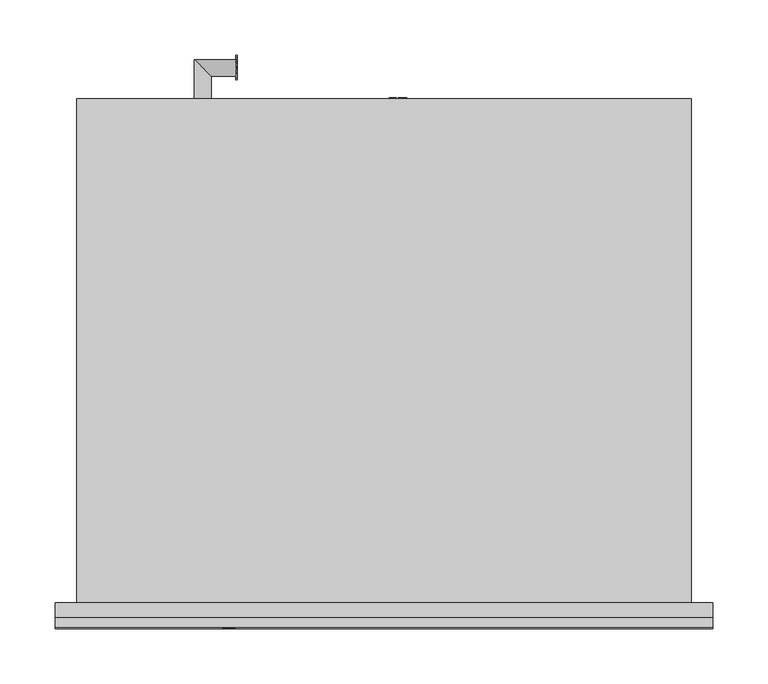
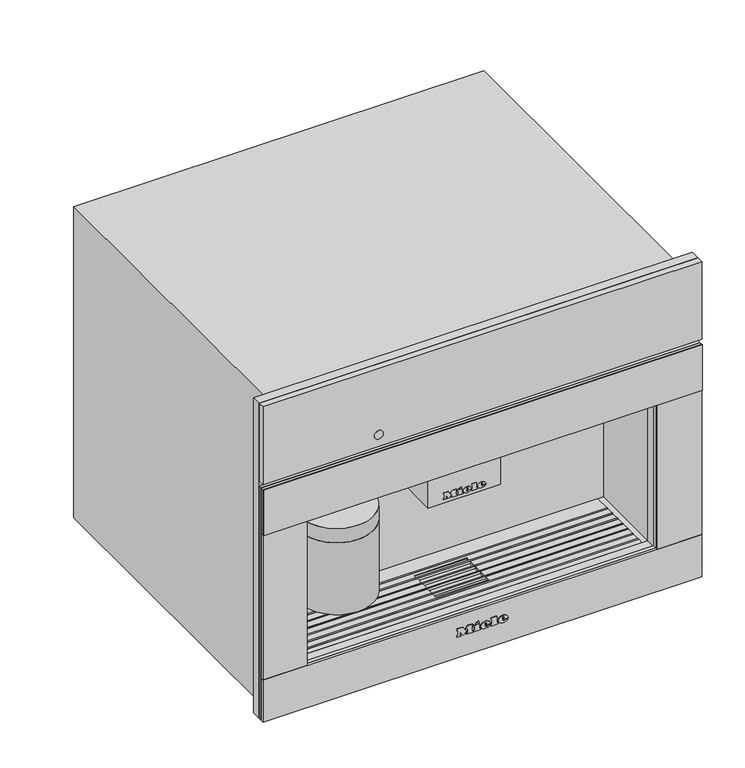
"""IFC4 building model written with IfcOpenShell, lengths in millimetres: proxy geometry, 11166010_NER_CVA7845_EDST-CLST : 29784540_NER_11166010_CVA7845_EDST-CLST."""

from ifc_helpers import new_model, si_unit, point, frame, frame_2d, origin, place, context, project, spatial, polyline, circle_curve, ellipse_curve, trimmed, segment, composite_curve, outline, extrude, faceted_brep, source, transform, mapped, element, save
from ifc_brep_helpers import plane_surface, cylinder_surface, revolved_surface, extruded_surface, advanced_brep


def specialty_equipment_bbc4acb7(model_context):
    return source(origin(), model_context, "Body", "SolidModel", [
        extrude(outline(composite_curve([segment(trimmed(circle_curve(frame_2d((-14.0, 36.5)), 5.0), [point((-9.0, 36.5))], [point((-19.0, 36.5))], False, "CARTESIAN"), True, "CONTINUOUS"), segment(trimmed(circle_curve(frame_2d((-14.0, 36.5)), 5.0), [point((-19.0, 36.5))], [point((-9.0, 36.5))], False, "CARTESIAN"), True, "CONTINUOUS")], self_intersect=False)), frame((0.0, 0.0, 193.0), z_axis=(0.0, 0.0, 1.0), x_axis=(1.0, 0.0, 0.0)), (0.0, 0.0, 1.0), 5.0),
        extrude(outline(composite_curve([segment(trimmed(circle_curve(frame_2d((14.0, 36.5)), 5.0), [point((19.0, 36.5))], [point((9.0, 36.5))], False, "CARTESIAN"), True, "CONTINUOUS"), segment(trimmed(circle_curve(frame_2d((14.0, 36.5)), 5.0), [point((9.0, 36.5))], [point((19.0, 36.5))], False, "CARTESIAN"), True, "CONTINUOUS")], self_intersect=False)), frame((0.0, 0.0, 193.0), z_axis=(0.0, 0.0, 1.0), x_axis=(1.0, 0.0, 0.0)), (0.0, 0.0, 1.0), 5.0),
        extrude(outline(composite_curve([segment(trimmed(circle_curve(frame_2d((-156.5, 49.5)), 50.0), [point((-106.5, 49.5))], [point((-206.5, 49.5))], False, "CARTESIAN"), True, "CONTINUOUS"), segment(trimmed(circle_curve(frame_2d((-156.5, 49.5)), 50.0), [point((-206.5, 49.5))], [point((-106.5, 49.5))], False, "CARTESIAN"), True, "CONTINUOUS")], self_intersect=False)), frame((0.0, 0.0, 100.0), z_axis=(0.0, 0.0, 1.0), x_axis=(1.0, 0.0, 0.0)), (0.0, 0.0, 1.0), 103.0),
        extrude(outline(polyline([(-49.0, 95.0), (49.0, 95.0), (49.0, 20.0), (-49.0, 20.0), (-49.0, 95.0)])), frame((0.0, 0.0, 198.0), z_axis=(0.0, 0.0, 1.0), x_axis=(1.0, 0.0, 0.0)), (0.0, 0.0, 1.0), 75.0),
        extrude(outline(polyline([(455.5, 297.5), (455.5, -297.5), (4.0, -297.5), (4.0, 297.5), (455.5, 297.5)]), holes=[polyline([(273.0, 237.5), (63.0, 237.5), (63.0, -237.5), (273.0, -237.5), (273.0, 237.5)])]), frame((0.0, -13.0, 0.0), z_axis=(0.0, 1.0, 0.0), x_axis=(0.0, 0.0, 1.0)), (0.0, 0.0, 1.0), 13.0),
        extrude(outline(polyline([(473.48348, 22.0), (473.48348, 32.045631), (474.7391839, 32.045631), (474.7391839, 27.128275), (479.8895318, 32.045631), (481.6455552, 32.045631), (477.319263, 27.9155425), (481.8025182, 22.0), (480.267224, 22.0), (476.4289885, 27.0669613), (474.7391839, 25.4531857), (474.7391839, 22.0), (473.48348, 22.0)])), frame((-134.0, 0.0, 0.0), z_axis=(1.0, 0.0, 0.0), x_axis=(0.0, 1.0, 0.0)), (0.0, 0.0, 1.0), 1.0),
        extrude(outline(polyline([(484.5420128, 22.0), (481.8025182, 32.045631), (483.0974628, 32.045631), (484.6867131, 25.4433755), (485.1772224, 23.4053092), (485.7020674, 25.207931), (487.6935352, 32.045631), (489.5599232, 32.045631), (491.0069257, 27.0890343), (492.0835937, 23.4053092), (492.5593878, 25.3845144), (494.1609007, 32.045631), (495.4582979, 32.045631), (492.7212558, 22.0), (491.3772603, 22.0), (488.9664069, 29.7500474), (488.630408, 30.8316204), (488.2527159, 29.5293182), (486.0576866, 22.0), (484.5420128, 22.0)])), frame((-134.0, 0.0, 0.0), z_axis=(1.0, 0.0, 0.0), x_axis=(0.0, 1.0, 0.0)), (0.0, 0.0, 1.0), 1.0),
        advanced_brep(
        [(-156.5, 456.0, 27.0), (-171.5, 456.0, 27.0), (-156.5, 476.5, 27.0), (-171.5, 491.5, 27.0), (-134.0, 476.5, 27.0), (-134.0, 491.5, 27.0)],
        [
            (0, 1, circle_curve(frame((-164.0, 456.0, 27.0), z_axis=(0.0, -1.0, 0.0), x_axis=(-1.0, 0.0, 0.0)), 7.5)),
            (1, 0, circle_curve(frame((-164.0, 456.0, 27.0), z_axis=(0.0, -1.0, 0.0), x_axis=(-1.0, 0.0, 0.0)), 7.5)),
            (0, 2),
            (2, 3, ellipse_curve(frame((-164.0, 484.0, 27.0), z_axis=(-0.707106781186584, -0.7071067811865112, 0.0), x_axis=(0.7071067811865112, -0.7071067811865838, 0.0)), 10.6066017, 7.5)),
            (3, 1),
            (3, 2, ellipse_curve(frame((-164.0, 484.0, 27.0), z_axis=(-0.707106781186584, -0.7071067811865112, 0.0), x_axis=(0.7071067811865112, -0.7071067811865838, 0.0)), 10.6066017, 7.5)),
            (4, 5, circle_curve(frame((-134.0, 484.0, 27.0), z_axis=(1.0, 0.0, 0.0), x_axis=(0.0, 1.0, 0.0)), 7.5)),
            (5, 4, circle_curve(frame((-134.0, 484.0, 27.0), z_axis=(1.0, 0.0, 0.0), x_axis=(0.0, 1.0, 0.0)), 7.5)),
            (2, 4),
            (5, 3),
        ],
        [
            plane_surface(frame((-164.0, 456.0, 27.0), z_axis=(0.0, -1.0, 0.0), x_axis=(0.0, 0.0, 1.0))),
            cylinder_surface(frame((-164.0, 456.0, 27.0), z_axis=(0.0, -1.0, 0.0), x_axis=(-1.0, 0.0, 0.0)), 7.5),
            plane_surface(frame((-134.0, 484.0, 27.0), z_axis=(1.0, 0.0, 0.0), x_axis=(0.0, 0.0, 1.0))),
            cylinder_surface(frame((-164.0, 484.0, 27.0), z_axis=(-1.0, 0.0, 0.0), x_axis=(0.0, 1.0, 0.0)), 7.5),
        ],
        [
            (0, [[1, 2]]),
            (1, [[-1, 3, 4, 5]]),
            (1, [[-2, -5, 6, -3]]),
            (2, [[7, 8]]),
            (3, [[-4, 9, -8, 10]]),
            (3, [[-6, -10, -7, -9]]),
        ],
    ),
        extrude(outline(polyline([(97.0, 20.4012141), (107.045631, 20.4012141), (107.045631, 13.1809168), (105.7899271, 13.1809168), (105.7899271, 19.1455102), (102.8076304, 19.1455102), (102.8076304, 13.4948427), (101.5519266, 13.4948427), (101.5519266, 19.1455102), (98.2557039, 19.1455102), (98.2557039, 13.0239538), (97.0, 13.0239538), (97.0, 20.4012141)])), frame((0.0, 456.0, 0.0), z_axis=(0.0, 1.0, 0.0), x_axis=(0.0, 0.0, 1.0)), (0.0, 0.0, 1.0), 1.0),
        extrude(outline(polyline([(97.0, 11.140398), (107.045631, 11.140398), (107.045631, 9.8846941), (98.2557039, 9.8846941), (98.2557039, 4.8618786), (97.0, 4.8618786), (97.0, 11.140398)])), frame((0.0, 456.0, 0.0), z_axis=(0.0, 1.0, 0.0), x_axis=(0.0, 0.0, 1.0)), (0.0, 0.0, 1.0), 1.0),
        advanced_brep(
        [(55.0, 425.5, 102.0), (55.0, 410.5, 102.0), (20.5239538, 425.5, 102.0), (5.5239538, 410.5, 102.0), (20.5239538, 456.0, 102.0), (5.5239538, 456.0, 102.0)],
        [
            (0, 1, circle_curve(frame((55.0, 418.0, 102.0), z_axis=(1.0, 0.0, 0.0), x_axis=(0.0, -1.0, 0.0)), 7.5)),
            (1, 0, circle_curve(frame((55.0, 418.0, 102.0), z_axis=(1.0, 0.0, 0.0), x_axis=(0.0, -1.0, 0.0)), 7.5)),
            (0, 2),
            (2, 3, ellipse_curve(frame((13.0239538, 418.0, 102.0), z_axis=(0.7071067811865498, -0.7071067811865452, 0.0), x_axis=(0.7071067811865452, 0.7071067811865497, 0.0)), 10.6066017, 7.5)),
            (3, 1),
            (3, 2, ellipse_curve(frame((13.0239538, 418.0, 102.0), z_axis=(0.7071067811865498, -0.7071067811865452, 0.0), x_axis=(0.7071067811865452, 0.7071067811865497, 0.0)), 10.6066017, 7.5)),
            (4, 5, circle_curve(frame((13.0239538, 456.0, 102.0), z_axis=(0.0, 1.0, 0.0), x_axis=(-1.0, 0.0, 0.0)), 7.5)),
            (5, 4, circle_curve(frame((13.0239538, 456.0, 102.0), z_axis=(0.0, 1.0, 0.0), x_axis=(-1.0, 0.0, 0.0)), 7.5)),
            (2, 4),
            (5, 3),
        ],
        [
            plane_surface(frame((55.0, 418.0, 102.0), z_axis=(1.0, 0.0, 0.0), x_axis=(0.0, 0.0, 1.0))),
            cylinder_surface(frame((55.0, 418.0, 102.0), z_axis=(1.0, 0.0, 0.0), x_axis=(0.0, -1.0, 0.0)), 7.5),
            plane_surface(frame((13.0239538, 456.0, 102.0), z_axis=(0.0, 1.0, 0.0), x_axis=(0.0, 0.0, 1.0))),
            cylinder_surface(frame((13.0239538, 418.0, 102.0), z_axis=(0.0, -1.0, 0.0), x_axis=(-1.0, 0.0, 0.0)), 7.5),
        ],
        [
            (0, [[1, 2]]),
            (1, [[-1, 3, 4, 5]]),
            (1, [[-2, -5, 6, -3]]),
            (2, [[7, 8]]),
            (3, [[-4, 9, -8, 10]]),
            (3, [[-6, -10, -7, -9]]),
        ],
    ),
        advanced_brep(
        [(-110.0, 49.5, 252.0), (-203.0, 49.5, 252.0), (-206.5, 49.5, 223.5), (-106.5, 49.5, 223.5), (-110.0, 49.5, 273.0), (-203.0, 49.5, 273.0), (-156.5, 49.5, 273.0), (-106.5, 49.5, 203.0), (-206.5, 49.5, 203.0), (-156.5, 49.5, 203.0)],
        [
            (0, 1, circle_curve(frame((-156.5, 49.5, 252.0), z_axis=(0.0, 0.0, -1.0), x_axis=(-1.0, 0.0, 0.0)), 46.5)),
            (1, 2, circle_curve(frame((-206.7961166, 49.5, 238.0012775), z_axis=(0.0, 1.0, 0.0), x_axis=(-1.0, 0.0, 0.0)), 14.5043005)),
            (2, 3, circle_curve(frame((-156.5, 49.5, 223.5), z_axis=(0.0, 0.0, 1.0), x_axis=(-1.0, 0.0, 0.0)), 50.0)),
            (3, 0, circle_curve(frame((-106.2038834, 49.5, 238.0012775), z_axis=(0.0, 1.0, 0.0), x_axis=(1.0, 0.0, 0.0)), 14.5043005)),
            (4, 5, circle_curve(frame((-156.5, 49.5, 273.0), z_axis=(0.0, 0.0, -1.0), x_axis=(-1.0, 0.0, 0.0)), 46.5)),
            (5, 1),
            (0, 4),
            (6, 4),
            (4, 5, circle_curve(frame((-156.5, 49.5, 273.0), z_axis=(0.0, 0.0, 1.0), x_axis=(-1.0, 0.0, 0.0)), 46.5)),
            (5, 6),
            (7, 8, circle_curve(frame((-156.5, 49.5, 203.0), z_axis=(0.0, 0.0, -1.0), x_axis=(-1.0, 0.0, 0.0)), 50.0)),
            (8, 9),
            (9, 7),
            (8, 7, circle_curve(frame((-156.5, 49.5, 203.0), z_axis=(0.0, 0.0, -1.0), x_axis=(-1.0, 0.0, 0.0)), 50.0)),
            (2, 8),
            (7, 3),
            (2, 3, circle_curve(frame((-156.5, 49.5, 223.5), z_axis=(0.0, 0.0, -1.0), x_axis=(-1.0, 0.0, 0.0)), 50.0)),
            (1, 0, circle_curve(frame((-156.5, 49.5, 252.0), z_axis=(0.0, 0.0, -1.0), x_axis=(-1.0, 0.0, 0.0)), 46.5)),
        ],
        [
            revolved_surface(trimmed(ellipse_curve(frame((-206.7961166, 49.5, 238.0012775), z_axis=(0.0, -1.0, 0.0), x_axis=(-1.0, 0.0, 0.0)), 14.5043005, 14.5043005), [point((-206.5, 49.5, 223.5))], [point((-203.0, 49.5, 252.0))], True, "CARTESIAN"), (-156.5, 49.5, 388.7361736), (0.0, 0.0, 1.0)),
            cylinder_surface(frame((-156.5, 49.5, 388.7361736), z_axis=(0.0, 0.0, 1.0), x_axis=(-1.0, 0.0, 0.0)), 46.5),
            plane_surface(frame((-156.5, 49.5, 273.0), z_axis=(0.0, 0.0, 1.0), x_axis=(-1.0, 0.0, 0.0))),
            plane_surface(frame((-156.5, 49.5, 203.0), z_axis=(0.0, 0.0, -1.0), x_axis=(-1.0, 0.0, 0.0))),
            cylinder_surface(frame((-156.5, 49.5, 388.7361736), z_axis=(0.0, 0.0, 1.0), x_axis=(-1.0, 0.0, 0.0)), 50.0),
        ],
        [
            (0, [[1, 2, 3, 4]]),
            (1, [[5, 6, -1, 7]]),
            (2, [[8, 9, 10]]),
            (3, [[11, 12, 13]]),
            (3, [[14, -13, -12]]),
            (4, [[-3, 15, -11, 16]]),
            (4, [[17, -16, -14, -15]]),
            (0, [[18, -4, -17, -2]]),
            (1, [[-9, -7, -18, -6]]),
            (2, [[-10, -5, -8]]),
        ],
    ),
        faceted_brep([(229.5, 82.0925571, 60.0), (229.5, 80.0925571, 60.0), (-229.5, 80.0925571, 60.0), (-229.5, 82.0925571, 60.0), (229.5, 70.0550731, 60.0), (229.5, 68.0550731, 60.0), (-229.5, 68.0550731, 60.0), (-229.5, 70.0550731, 60.0), (229.5, 58.0175891, 60.0), (229.5, 56.0175891, 60.0), (-229.5, 56.0175891, 60.0), (-229.5, 58.0175891, 60.0), (229.5, 45.9801052, 60.0), (229.5, 43.9801052, 60.0), (-229.5, 43.9801052, 60.0), (-229.5, 45.9801052, 60.0), (229.5, 33.9426212, 60.0), (229.5, 31.9426212, 60.0), (-229.5, 31.9426212, 60.0), (-229.5, 33.9426212, 60.0), (229.5, 21.9776522, 60.0), (229.5, 19.9776522, 60.0), (-229.5, 19.9776522, 60.0), (-229.5, 21.9776522, 60.0), (229.5, 10.0, 60.0), (229.5, 8.0, 60.0), (-229.5, 8.0, 60.0), (-229.5, 10.0, 60.0), (-229.5, 45.9801052, 62.0), (-36.0, 45.9801052, 62.0), (-36.0, 45.9801052, 63.0), (-229.5, 45.9801052, 63.0), (-229.5, 45.9801052, 63.5), (229.5, 45.9801052, 63.5), (229.5, 45.9801052, 63.0), (36.0, 45.9801052, 63.0), (36.0, 45.9801052, 62.0), (229.5, 45.9801052, 62.0), (229.5, 19.9776522, 62.0), (229.5, 10.0, 62.0), (-229.5, 10.0, 62.0), (-229.5, 19.9776522, 62.0), (229.5, 43.9801052, 62.0), (229.5, 33.9426212, 62.0), (36.0, 33.9426212, 62.0), (36.0, 43.9801052, 62.0), (229.5, 56.0175891, 62.0), (36.0, 56.0175891, 62.0), (229.5, 68.0550731, 62.0), (229.5, 58.0175891, 62.0), (36.0, 58.0175891, 62.0), (36.0, 68.0550731, 62.0), (-229.5, 33.9426212, 62.0), (-229.5, 43.9801052, 62.0), (-36.0, 43.9801052, 62.0), (-36.0, 33.9426212, 62.0), (-229.5, 56.0175891, 62.0), (-36.0, 56.0175891, 62.0), (-229.5, 58.0175891, 62.0), (-229.5, 68.0550731, 62.0), (-36.0, 68.0550731, 62.0), (-36.0, 58.0175891, 62.0), (-229.5, 104.5, 62.0), (229.5, 104.5, 62.0), (229.5, 82.0925571, 62.0), (-229.5, 82.0925571, 62.0), (36.0, 76.0, 62.0), (-36.0, 76.0, 62.0), (-36.0, 70.0550731, 62.0), (-229.5, 70.0550731, 62.0), (-229.5, 80.0925571, 62.0), (229.5, 80.0925571, 62.0), (229.5, 70.0550731, 62.0), (36.0, 70.0550731, 62.0), (229.5, 0.0, 62.0), (-229.5, 0.0, 62.0), (-229.5, 8.0, 62.0), (229.5, 8.0, 62.0), (-36.0, 25.0, 62.0), (36.0, 25.0, 62.0), (36.0, 31.9426212, 62.0), (229.5, 31.9426212, 62.0), (229.5, 21.9776522, 62.0), (-229.5, 21.9776522, 62.0), (-229.5, 31.9426212, 62.0), (-36.0, 31.9426212, 62.0), (229.5, 104.5, 63.0), (-229.5, 104.5, 63.0), (-229.5, 82.0925571, 63.0), (229.5, 82.0925571, 63.0), (-229.5, 0.0, 63.0), (229.5, 0.0, 63.0), (229.5, 8.0, 63.0), (-229.5, 8.0, 63.0), (-36.0, 76.0, 63.0), (36.0, 76.0, 63.0), (36.0, 70.0550731, 63.0), (229.5, 70.0550731, 63.0), (229.5, 80.0925571, 63.0), (-229.5, 80.0925571, 63.0), (-229.5, 70.0550731, 63.0), (-36.0, 70.0550731, 63.0), (36.0, 25.0, 63.0), (-36.0, 25.0, 63.0), (-36.0, 31.9426212, 63.0), (-229.5, 31.9426212, 63.0), (-229.5, 21.9776522, 63.0), (229.5, 21.9776522, 63.0), (229.5, 31.9426212, 63.0), (36.0, 31.9426212, 63.0), (-229.5, 19.9776522, 63.0), (-229.5, 10.0, 63.0), (229.5, 10.0, 63.0), (229.5, 19.9776522, 63.0), (-229.5, 43.9801052, 63.0), (-229.5, 33.9426212, 63.0), (-36.0, 33.9426212, 63.0), (-36.0, 43.9801052, 63.0), (-229.5, 56.0175891, 63.0), (-36.0, 56.0175891, 63.0), (-229.5, 68.0550731, 63.0), (-229.5, 58.0175891, 63.0), (-36.0, 58.0175891, 63.0), (-36.0, 68.0550731, 63.0), (229.5, 33.9426212, 63.0), (229.5, 43.9801052, 63.0), (36.0, 43.9801052, 63.0), (36.0, 33.9426212, 63.0), (229.5, 56.0175891, 63.0), (36.0, 56.0175891, 63.0), (229.5, 58.0175891, 63.0), (229.5, 68.0550731, 63.0), (36.0, 68.0550731, 63.0), (36.0, 58.0175891, 63.0), (-229.5, 8.0, 63.5), (-229.5, 10.0, 63.5), (-229.5, 19.9776522, 63.5), (-229.5, 21.9776522, 63.5), (-229.5, 31.9426212, 63.5), (-229.5, 33.9426212, 63.5), (-229.5, 43.9801052, 63.5), (-229.5, 56.0175891, 63.5), (-229.5, 58.0175891, 63.5), (-229.5, 68.0550731, 63.5), (-229.5, 70.0550731, 63.5), (-229.5, 80.0925571, 63.5), (-229.5, 82.0925571, 63.5), (229.5, 82.0925571, 63.5), (229.5, 80.0925571, 63.5), (229.5, 70.0550731, 63.5), (229.5, 68.0550731, 63.5), (229.5, 58.0175891, 63.5), (229.5, 56.0175891, 63.5), (229.5, 43.9801052, 63.5), (229.5, 33.9426212, 63.5), (229.5, 31.9426212, 63.5), (229.5, 21.9776522, 63.5), (229.5, 19.9776522, 63.5), (229.5, 10.0, 63.5), (229.5, 8.0, 63.5)], [[[0, 1, 2, 3]], [[4, 5, 6, 7]], [[8, 9, 10, 11]], [[12, 13, 14, 15]], [[16, 17, 18, 19]], [[20, 21, 22, 23]], [[24, 25, 26, 27]], [[12, 15, 28, 29, 30, 31, 32, 33, 34, 35, 36, 37]], [[38, 39, 40, 41]], [[42, 43, 44, 45]], [[46, 37, 36, 47]], [[48, 49, 50, 51]], [[52, 53, 54, 55]], [[28, 56, 57, 29]], [[58, 59, 60, 61]], [[62, 63, 64, 65]], [[66, 67, 68, 69, 70, 71, 72, 73]], [[74, 75, 76, 77]], [[78, 79, 80, 81, 82, 83, 84, 85]], [[86, 87, 88, 89]], [[90, 91, 92, 93]], [[94, 95, 96, 97, 98, 99, 100, 101]], [[102, 103, 104, 105, 106, 107, 108, 109]], [[110, 111, 112, 113]], [[114, 115, 116, 117]], [[118, 31, 30, 119]], [[120, 121, 122, 123]], [[124, 125, 126, 127]], [[34, 128, 129, 35]], [[130, 131, 132, 133]], [[63, 62, 87, 86]], [[87, 62, 65, 3, 2, 70, 69, 7, 6, 59, 58, 11, 10, 56, 28, 15, 14, 53, 52, 19, 18, 84, 83, 23, 22, 41, 40, 27, 26, 76, 75, 90, 93, 134, 135, 111, 110, 136, 137, 106, 105, 138, 139, 115, 114, 140, 32, 31, 118, 141, 142, 121, 120, 143, 144, 100, 99, 145, 146, 88]], [[75, 74, 91, 90]], [[63, 86, 89, 147, 148, 98, 97, 149, 150, 131, 130, 151, 152, 128, 34, 33, 153, 125, 124, 154, 155, 108, 107, 156, 157, 113, 112, 158, 159, 92, 91, 74, 77, 25, 24, 39, 38, 21, 20, 82, 81, 17, 16, 43, 42, 13, 12, 37, 46, 9, 8, 49, 48, 5, 4, 72, 71, 1, 0, 64]], [[66, 95, 94, 67]], [[55, 54, 117, 116]], [[29, 57, 119, 30]], [[61, 60, 123, 122]], [[67, 94, 101, 68]], [[103, 78, 85, 104]], [[78, 103, 102, 79]], [[45, 44, 127, 126]], [[47, 36, 35, 129]], [[51, 50, 133, 132]], [[95, 66, 73, 96]], [[79, 102, 109, 80]], [[158, 135, 134, 159]], [[156, 137, 136, 157]], [[154, 139, 138, 155]], [[33, 32, 140, 153]], [[151, 142, 141, 152]], [[149, 144, 143, 150]], [[147, 146, 145, 148]], [[24, 27, 40, 39]], [[135, 158, 112, 111]], [[26, 25, 77, 76]], [[159, 134, 93, 92]], [[20, 23, 83, 82]], [[137, 156, 107, 106]], [[22, 21, 38, 41]], [[157, 136, 110, 113]], [[16, 19, 52, 55, 116, 115, 139, 154, 124, 127, 44, 43]], [[18, 17, 81, 80, 109, 108, 155, 138, 105, 104, 85, 84]], [[14, 13, 42, 45, 126, 125, 153, 140, 114, 117, 54, 53]], [[8, 11, 58, 61, 122, 121, 142, 151, 130, 133, 50, 49]], [[10, 9, 46, 47, 129, 128, 152, 141, 118, 119, 57, 56]], [[4, 7, 69, 68, 101, 100, 144, 149, 97, 96, 73, 72]], [[6, 5, 48, 51, 132, 131, 150, 143, 120, 123, 60, 59]], [[0, 3, 65, 64]], [[146, 147, 89, 88]], [[2, 1, 71, 70]], [[148, 145, 99, 98]]]),
        faceted_brep([(-278.0, 456.0, 0.0), (-278.0, 0.0, 0.0), (-278.0, 0.0, 446.0), (-278.0, 456.0, 446.0), (278.0, 456.0, 0.0), (278.0, 456.0, 446.0), (278.0, 0.0, 446.0), (278.0, 0.0, 0.0), (55.0, 456.0, 133.0), (-22.0, 456.0, 133.0), (-22.0, 456.0, 89.0), (35.0, 456.0, 66.0), (55.0, 456.0, 66.0), (-36.0, 76.0, 58.0), (36.0, 76.0, 58.0), (36.0, 76.0, 62.0), (-36.0, 76.0, 62.0), (36.0, 25.0, 58.0), (-36.0, 25.0, 58.0), (-36.0, 25.0, 62.0), (36.0, 25.0, 62.0), (237.5, 0.0, 273.0), (237.5, 0.0, 63.0), (229.5, 0.0, 63.0), (229.5, 0.0, 62.0), (-229.5, 0.0, 62.0), (-229.5, 0.0, 63.0), (-237.5, 0.0, 63.0), (-237.5, 0.0, 273.0), (237.5, 104.5, 273.0), (-237.5, 104.5, 273.0), (-237.5, 104.5, 63.0), (-229.5, 104.5, 63.0), (-229.5, 104.5, 62.0), (229.5, 104.5, 62.0), (229.5, 104.5, 63.0), (237.5, 104.5, 63.0), (-22.0, 400.0, 133.0), (55.0, 400.0, 133.0), (55.0, 400.0, 66.0), (35.0, 400.0, 66.0), (-22.0, 400.0, 89.0)], [[[0, 1, 2, 3]], [[4, 5, 6, 7]], [[0, 3, 5, 4], [8, 9, 10, 11, 12]], [[13, 14, 15, 16]], [[17, 18, 19, 20]], [[3, 2, 6, 5]], [[2, 1, 7, 6], [21, 22, 23, 24, 25, 26, 27, 28]], [[1, 0, 4, 7]], [[29, 30, 31, 32, 33, 34, 35, 36]], [[29, 36, 22, 21]], [[22, 36, 35, 23]], [[31, 27, 26, 32]], [[31, 30, 28, 27]], [[30, 29, 21, 28]], [[34, 33, 25, 24], [16, 15, 20, 19]], [[25, 33, 32, 26]], [[34, 24, 23, 35]], [[14, 13, 18, 17]], [[18, 13, 16, 19]], [[14, 17, 20, 15]], [[37, 38, 39, 40, 41]], [[38, 37, 9, 8]], [[39, 38, 8, 12]], [[40, 39, 12, 11]], [[41, 40, 11, 10]], [[37, 41, 10, 9]]]),
        advanced_brep(
        [(27.088, -23.0, 36.7018), (27.088, -23.0, 37.8532), (34.7146, -23.0, 37.8532), (21.445, -23.0, 37.8532), (24.58, -23.0, 34.0), (34.5208, -23.0, 36.7018), (31.078, -23.0, 36.7018), (28.3648, -23.0, 35.425), (27.088, -23.0, 39.3124), (27.088, -23.0, 40.555), (29.0374, -23.0, 40.555), (29.0374, -23.0, 39.3124), (27.088, -22.0, 36.7018), (28.3648, -22.0, 35.425), (31.078, -22.0, 36.7018), (34.5208, -22.0, 36.7018), (24.58, -22.0, 34.0), (21.445, -22.0, 37.8532), (34.7146, -22.0, 37.8532), (27.088, -22.0, 37.8532), (27.088, -22.0, 39.3124), (29.0374, -22.0, 39.3124), (29.0374, -22.0, 40.555), (27.088, -22.0, 40.555)],
        [
            (0, 1),
            (1, 2),
            (2, 3, ellipse_curve(frame((28.0798, -23.0, 37.8532), z_axis=(0.0, -1.0, 0.0), x_axis=(-1.0, 0.0, 0.0)), 6.6348, 5.4834)),
            (3, 4, circle_curve(frame((25.8568622, -23.0, 38.2408), z_axis=(0.0, -1.0, 0.0), x_axis=(0.0, 0.0, -1.0)), 4.4288556)),
            (4, 5, circle_curve(frame((27.9469808, -23.0, 41.2504), z_axis=(0.0, -1.0, 0.0), x_axis=(0.0, 0.0, -1.0)), 7.9940516)),
            (5, 6),
            (6, 7, circle_curve(frame((28.9220588, -23.0, 37.762), z_axis=(0.0, 1.0, 0.0), x_axis=(0.0, 0.0, -1.0)), 2.4025208)),
            (7, 0, circle_curve(frame((28.3648, -23.0, 36.7018), z_axis=(0.0, 1.0, 0.0), x_axis=(0.0, 0.0, -1.0)), 1.2768)),
            (8, 9),
            (9, 10, circle_curve(frame((28.0627, -23.0, 40.555), z_axis=(0.0, 1.0, 0.0), x_axis=(0.0, 0.0, -1.0)), 0.9747)),
            (10, 11),
            (11, 8),
            (12, 13, circle_curve(frame((28.3648, -22.0, 36.7018), z_axis=(0.0, -1.0, 0.0), x_axis=(0.0, 0.0, -1.0)), 1.2768)),
            (13, 14, circle_curve(frame((28.9220588, -22.0, 37.762), z_axis=(0.0, -1.0, 0.0), x_axis=(0.0, 0.0, -1.0)), 2.4025208)),
            (14, 15),
            (15, 16, circle_curve(frame((27.9469808, -22.0, 41.2504), z_axis=(0.0, 1.0, 0.0), x_axis=(0.0, 0.0, -1.0)), 7.9940516)),
            (16, 17, circle_curve(frame((25.8568622, -22.0, 38.2408), z_axis=(0.0, 1.0, 0.0), x_axis=(0.0, 0.0, -1.0)), 4.4288556)),
            (17, 18, ellipse_curve(frame((28.0798, -22.0, 37.8532), z_axis=(0.0, 1.0, 0.0), x_axis=(-1.0, 0.0, 0.0)), 6.6348, 5.4834)),
            (18, 19),
            (19, 12),
            (20, 21),
            (21, 22),
            (22, 23, circle_curve(frame((28.0627, -22.0, 40.555), z_axis=(0.0, -1.0, 0.0), x_axis=(0.0, 0.0, -1.0)), 0.9747)),
            (23, 20),
            (0, 12),
            (19, 1),
            (18, 2),
            (5, 15),
            (14, 6),
            (17, 3),
            (13, 7),
            (16, 4),
            (8, 20),
            (23, 9),
            (22, 10),
            (21, 11),
        ],
        [
            plane_surface(frame((27.088, -23.0, 37.8532), z_axis=(0.0, -1.0, 0.0), x_axis=(0.0, 0.0, 1.0))),
            plane_surface(frame((27.088, -22.0, 37.8532), z_axis=(0.0, 1.0, 0.0), x_axis=(0.0, 0.0, -1.0))),
            plane_surface(frame((27.088, -23.0, 36.7018), z_axis=(1.0, 0.0, 0.0), x_axis=(0.0, 1.0, 0.0))),
            plane_surface(frame((27.088, -23.0, 37.8532), z_axis=(0.0, 0.0, -1.0), x_axis=(0.0, 1.0, 0.0))),
            plane_surface(frame((34.5208, -23.0, 36.7018), z_axis=(0.0, 0.0, 1.0), x_axis=(0.0, 1.0, 0.0))),
            extruded_surface(trimmed(ellipse_curve(frame((28.0798, -21.0, 37.8532), z_axis=(0.0, -1.0, 0.0), x_axis=(-1.0, 0.0, 0.0)), 6.6348, 5.4834), [point((34.7146, -21.0, 37.8532))], [point((21.445, -21.0, 37.8532))], True, "CARTESIAN"), (0.0, -1.0, 0.0), 1.0),
            revolved_surface(polyline([(28.9220588, -22.0, 35.3594792), (28.9220588, -23.0, 35.3594792)]), (28.9220588, -22.0, 37.762), (0.0, 1.0, 0.0)),
            revolved_surface(polyline([(28.3648, -22.0, 35.425), (28.3648, -23.0, 35.425)]), (28.3648, -22.0, 36.7018), (0.0, 1.0, 0.0)),
            cylinder_surface(frame((25.8568622, -22.0, 38.2408), z_axis=(0.0, -1.0, 0.0), x_axis=(0.0, 0.0, -1.0)), 4.4288556),
            cylinder_surface(frame((27.9469808, -22.0, 41.2504), z_axis=(0.0, -1.0, 0.0), x_axis=(0.0, 0.0, -1.0)), 7.9940516),
            plane_surface(frame((27.088, -23.0, 39.3124), z_axis=(1.0, 0.0, 0.0), x_axis=(0.0, 1.0, 0.0))),
            revolved_surface(polyline([(28.0627, -22.0, 39.5803), (28.0627, -23.0, 39.5803)]), (28.0627, -22.0, 40.555), (0.0, 1.0, 0.0)),
            plane_surface(frame((29.0374, -23.0, 40.555), z_axis=(-1.0, 0.0, 0.0), x_axis=(0.0, 1.0, 0.0))),
            plane_surface(frame((29.0374, -23.0, 39.3124), z_axis=(0.0, 0.0, 1.0), x_axis=(0.0, 1.0, 0.0))),
        ],
        [
            (0, [[1, 2, 3, 4, 5, 6, 7, 8], [9, 10, 11, 12]]),
            (1, [[13, 14, 15, 16, 17, 18, 19, 20], [21, 22, 23, 24]]),
            (2, [[-1, 25, -20, 26]]),
            (3, [[-2, -26, -19, 27]]),
            (4, [[-6, 28, -15, 29]]),
            (5, [[-3, -27, -18, 30]]),
            (6, [[-7, -29, -14, 31]]),
            (7, [[-8, -31, -13, -25]]),
            (8, [[-4, -30, -17, 32]]),
            (9, [[-5, -32, -16, -28]]),
            (10, [[-9, 33, -24, 34]]),
            (11, [[-10, -34, -23, 35]]),
            (12, [[-11, -35, -22, 36]]),
            (13, [[-12, -36, -21, -33]]),
        ],
    ),
        advanced_brep(
        [(3.2962, -23.0, 36.7018), (3.2962, -23.0, 37.8532), (10.9228, -23.0, 37.8532), (-2.3468, -23.0, 37.8532), (0.7882, -23.0, 34.0), (10.729, -23.0, 36.7018), (7.2862, -23.0, 36.7018), (4.573, -23.0, 35.425), (3.2962, -23.0, 39.3124), (3.2962, -23.0, 40.555), (5.2456, -23.0, 40.555), (5.2456, -23.0, 39.3124), (3.2962, -22.0, 36.7018), (4.573, -22.0, 35.425), (7.2862, -22.0, 36.7018), (10.729, -22.0, 36.7018), (0.7882, -22.0, 34.0), (-2.3468, -22.0, 37.8532), (10.9228, -22.0, 37.8532), (3.2962, -22.0, 37.8532), (3.2962, -22.0, 39.3124), (5.2456, -22.0, 39.3124), (5.2456, -22.0, 40.555), (3.2962, -22.0, 40.555)],
        [
            (0, 1),
            (1, 2),
            (2, 3, ellipse_curve(frame((4.288, -23.0, 37.8532), z_axis=(0.0, -1.0, 0.0), x_axis=(-1.0, 0.0, 0.0)), 6.6348, 5.4834)),
            (3, 4, circle_curve(frame((2.0650622, -23.0, 38.2408), z_axis=(0.0, -1.0, 0.0), x_axis=(0.0, 0.0, -1.0)), 4.4288556)),
            (4, 5, circle_curve(frame((4.1551808, -23.0, 41.2504), z_axis=(0.0, -1.0, 0.0), x_axis=(0.0, 0.0, -1.0)), 7.9940516)),
            (5, 6),
            (6, 7, circle_curve(frame((5.1302588, -23.0, 37.762), z_axis=(0.0, 1.0, 0.0), x_axis=(0.0, 0.0, -1.0)), 2.4025208)),
            (7, 0, circle_curve(frame((4.573, -23.0, 36.7018), z_axis=(0.0, 1.0, 0.0), x_axis=(0.0, 0.0, -1.0)), 1.2768)),
            (8, 9),
            (9, 10, circle_curve(frame((4.2709, -23.0, 40.555), z_axis=(0.0, 1.0, 0.0), x_axis=(0.0, 0.0, -1.0)), 0.9747)),
            (10, 11),
            (11, 8),
            (12, 13, circle_curve(frame((4.573, -22.0, 36.7018), z_axis=(0.0, -1.0, 0.0), x_axis=(0.0, 0.0, -1.0)), 1.2768)),
            (13, 14, circle_curve(frame((5.1302588, -22.0, 37.762), z_axis=(0.0, -1.0, 0.0), x_axis=(0.0, 0.0, -1.0)), 2.4025208)),
            (14, 15),
            (15, 16, circle_curve(frame((4.1551808, -22.0, 41.2504), z_axis=(0.0, 1.0, 0.0), x_axis=(0.0, 0.0, -1.0)), 7.9940516)),
            (16, 17, circle_curve(frame((2.0650622, -22.0, 38.2408), z_axis=(0.0, 1.0, 0.0), x_axis=(0.0, 0.0, -1.0)), 4.4288556)),
            (17, 18, ellipse_curve(frame((4.288, -22.0, 37.8532), z_axis=(0.0, 1.0, 0.0), x_axis=(-1.0, 0.0, 0.0)), 6.6348, 5.4834)),
            (18, 19),
            (19, 12),
            (20, 21),
            (21, 22),
            (22, 23, circle_curve(frame((4.2709, -22.0, 40.555), z_axis=(0.0, -1.0, 0.0), x_axis=(0.0, 0.0, -1.0)), 0.9747)),
            (23, 20),
            (0, 12),
            (19, 1),
            (18, 2),
            (5, 15),
            (14, 6),
            (17, 3),
            (13, 7),
            (16, 4),
            (8, 20),
            (23, 9),
            (22, 10),
            (21, 11),
        ],
        [
            plane_surface(frame((3.2962, -23.0, 37.8532), z_axis=(0.0, -1.0, 0.0), x_axis=(0.0, 0.0, 1.0))),
            plane_surface(frame((3.2962, -22.0, 37.8532), z_axis=(0.0, 1.0, 0.0), x_axis=(0.0, 0.0, -1.0))),
            plane_surface(frame((3.2962, -23.0, 36.7018), z_axis=(1.0, 0.0, 0.0), x_axis=(0.0, 1.0, 0.0))),
            plane_surface(frame((3.2962, -23.0, 37.8532), z_axis=(0.0, 0.0, -1.0), x_axis=(0.0, 1.0, 0.0))),
            plane_surface(frame((10.729, -23.0, 36.7018), z_axis=(0.0, 0.0, 1.0), x_axis=(0.0, 1.0, 0.0))),
            extruded_surface(trimmed(ellipse_curve(frame((4.288, -21.0, 37.8532), z_axis=(0.0, -1.0, 0.0), x_axis=(-1.0, 0.0, 0.0)), 6.6348, 5.4834), [point((10.9228, -21.0, 37.8532))], [point((-2.3468, -21.0, 37.8532))], True, "CARTESIAN"), (0.0, -1.0, 0.0), 1.0),
            revolved_surface(polyline([(5.1302588, -22.0, 35.3594792), (5.1302588, -23.0, 35.3594792)]), (5.1302588, -22.0, 37.762), (0.0, 1.0, 0.0)),
            revolved_surface(polyline([(4.573, -22.0, 35.425), (4.573, -23.0, 35.425)]), (4.573, -22.0, 36.7018), (0.0, 1.0, 0.0)),
            cylinder_surface(frame((2.0650622, -22.0, 38.2408), z_axis=(0.0, -1.0, 0.0), x_axis=(0.0, 0.0, -1.0)), 4.4288556),
            cylinder_surface(frame((4.1551808, -22.0, 41.2504), z_axis=(0.0, -1.0, 0.0), x_axis=(0.0, 0.0, -1.0)), 7.9940516),
            plane_surface(frame((3.2962, -23.0, 39.3124), z_axis=(1.0, 0.0, 0.0), x_axis=(0.0, 1.0, 0.0))),
            revolved_surface(polyline([(4.2709, -22.0, 39.5803), (4.2709, -23.0, 39.5803)]), (4.2709, -22.0, 40.555), (0.0, 1.0, 0.0)),
            plane_surface(frame((5.2456, -23.0, 40.555), z_axis=(-1.0, 0.0, 0.0), x_axis=(0.0, 1.0, 0.0))),
            plane_surface(frame((5.2456, -23.0, 39.3124), z_axis=(0.0, 0.0, 1.0), x_axis=(0.0, 1.0, 0.0))),
        ],
        [
            (0, [[1, 2, 3, 4, 5, 6, 7, 8], [9, 10, 11, 12]]),
            (1, [[13, 14, 15, 16, 17, 18, 19, 20], [21, 22, 23, 24]]),
            (2, [[-1, 25, -20, 26]]),
            (3, [[-2, -26, -19, 27]]),
            (4, [[-6, 28, -15, 29]]),
            (5, [[-3, -27, -18, 30]]),
            (6, [[-7, -29, -14, 31]]),
            (7, [[-8, -31, -13, -25]]),
            (8, [[-4, -30, -17, 32]]),
            (9, [[-5, -32, -16, -28]]),
            (10, [[-9, 33, -24, 34]]),
            (11, [[-10, -34, -23, 35]]),
            (12, [[-11, -35, -22, 36]]),
            (13, [[-12, -36, -21, -33]]),
        ],
    ),
        extrude(outline(polyline([(44.7274, -9.164), (42.8806, -8.2976), (44.6818, -4.433), (46.5286, -5.288), (44.7274, -9.164)])), frame((0.0, -23.0, 0.0), z_axis=(0.0, 1.0, 0.0), x_axis=(0.0, 0.0, 1.0)), (0.0, 0.0, 1.0), 1.0),
        extrude(outline(polyline([(42.6298, -11.9798), (40.5892, -11.9798), (40.5892, -10.6232), (35.9152, -10.6232), (35.9152, -11.9798), (34.0, -11.9798), (34.0, -2.9852), (35.9152, -2.9852), (35.9152, -4.3076), (42.6298, -4.3076), (42.6298, -11.9798)])), frame((0.0, -23.0, 0.0), z_axis=(0.0, 1.0, 0.0), x_axis=(0.0, 0.0, 1.0)), (0.0, 0.0, 1.0), 1.0),
        extrude(outline(polyline([(43.5418, 11.5612), (43.5418, 12.9292), (35.9152, 12.9292), (35.9152, 11.5612), (34.0, 11.5612), (34.0, 20.8066), (35.9152, 20.8066), (35.9152, 19.4044), (45.4, 19.4044), (45.4, 11.5612), (43.5418, 11.5612)])), frame((0.0, -23.0, 0.0), z_axis=(0.0, 1.0, 0.0), x_axis=(0.0, 0.0, 1.0)), (0.0, 0.0, 1.0), 1.0),
        extrude(outline(polyline([(43.5418, -34.7), (43.5418, -33.3206), (35.9152, -33.3206), (35.9152, -34.7), (34.0, -34.7), (34.0, -29.684), (35.9152, -29.684), (35.9152, -31.052), (40.7429247, -31.052), (34.0, -25.9562), (40.9402223, -20.8376), (35.9152, -20.8376), (35.9152, -22.2398), (34.0, -22.2398), (34.0, -13.1426), (35.9152, -13.1426), (35.9152, -14.5904), (43.5418, -14.5904), (43.5418, -13.1426), (45.4, -13.1426), (45.4, -20.0852), (41.125, -23.414), (45.4, -26.7542), (45.4, -34.7), (43.5418, -34.7)])), frame((0.0, -23.0, 0.0), z_axis=(0.0, 1.0, 0.0), x_axis=(0.0, 0.0, 1.0)), (0.0, 0.0, 1.0), 1.0),
        advanced_brep(
        [(22.348, 19.0, 205.5278), (22.348, 19.0, 206.4772), (28.6366, 19.0, 206.4772), (17.695, 19.0, 206.4772), (20.28, 19.0, 203.3), (28.4768, 19.0, 205.5278), (25.638, 19.0, 205.5278), (23.4008, 19.0, 204.475), (22.348, 19.0, 207.6804), (22.348, 19.0, 208.705), (23.9554, 19.0, 208.705), (23.9554, 19.0, 207.6804), (22.348, 20.0, 205.5278), (23.4008, 20.0, 204.475), (25.638, 20.0, 205.5278), (28.4768, 20.0, 205.5278), (20.28, 20.0, 203.3), (17.695, 20.0, 206.4772), (28.6366, 20.0, 206.4772), (22.348, 20.0, 206.4772), (22.348, 20.0, 207.6804), (23.9554, 20.0, 207.6804), (23.9554, 20.0, 208.705), (22.348, 20.0, 208.705)],
        [
            (0, 1),
            (1, 2),
            (2, 3, ellipse_curve(frame((23.1658, 19.0, 206.4772), z_axis=(0.0, -1.0, 0.0), x_axis=(-1.0, 0.0, 0.0)), 5.4708, 4.5214)),
            (3, 4, circle_curve(frame((21.3328513, 19.0, 206.7968), z_axis=(0.0, -1.0, 0.0), x_axis=(0.0, 0.0, -1.0)), 3.6518634)),
            (4, 5, circle_curve(frame((23.0562825, 19.0, 209.2784), z_axis=(0.0, -1.0, 0.0), x_axis=(0.0, 0.0, -1.0)), 6.5915864)),
            (5, 6),
            (6, 7, circle_curve(frame((23.8602941, 19.0, 206.402), z_axis=(0.0, 1.0, 0.0), x_axis=(0.0, 0.0, -1.0)), 1.981026)),
            (7, 0, circle_curve(frame((23.4008, 19.0, 205.5278), z_axis=(0.0, 1.0, 0.0), x_axis=(0.0, 0.0, -1.0)), 1.0528)),
            (8, 9),
            (9, 10, circle_curve(frame((23.1517, 19.0, 208.705), z_axis=(0.0, 1.0, 0.0), x_axis=(0.0, 0.0, -1.0)), 0.8037)),
            (10, 11),
            (11, 8),
            (12, 13, circle_curve(frame((23.4008, 20.0, 205.5278), z_axis=(0.0, -1.0, 0.0), x_axis=(0.0, 0.0, -1.0)), 1.0528)),
            (13, 14, circle_curve(frame((23.8602941, 20.0, 206.402), z_axis=(0.0, -1.0, 0.0), x_axis=(0.0, 0.0, -1.0)), 1.981026)),
            (14, 15),
            (15, 16, circle_curve(frame((23.0562825, 20.0, 209.2784), z_axis=(0.0, 1.0, 0.0), x_axis=(0.0, 0.0, -1.0)), 6.5915864)),
            (16, 17, circle_curve(frame((21.3328513, 20.0, 206.7968), z_axis=(0.0, 1.0, 0.0), x_axis=(0.0, 0.0, -1.0)), 3.6518634)),
            (17, 18, ellipse_curve(frame((23.1658, 20.0, 206.4772), z_axis=(0.0, 1.0, 0.0), x_axis=(-1.0, 0.0, 0.0)), 5.4708, 4.5214)),
            (18, 19),
            (19, 12),
            (20, 21),
            (21, 22),
            (22, 23, circle_curve(frame((23.1517, 20.0, 208.705), z_axis=(0.0, -1.0, 0.0), x_axis=(0.0, 0.0, -1.0)), 0.8037)),
            (23, 20),
            (0, 12),
            (19, 1),
            (18, 2),
            (5, 15),
            (14, 6),
            (17, 3),
            (13, 7),
            (16, 4),
            (8, 20),
            (23, 9),
            (22, 10),
            (21, 11),
        ],
        [
            plane_surface(frame((22.348, 19.0, 206.4772), z_axis=(0.0, -1.0, 0.0), x_axis=(0.0, 0.0, 1.0))),
            plane_surface(frame((22.348, 20.0, 206.4772), z_axis=(0.0, 1.0, 0.0), x_axis=(0.0, 0.0, -1.0))),
            plane_surface(frame((22.348, 19.0, 205.5278), z_axis=(1.0, 0.0, 0.0), x_axis=(0.0, 1.0, 0.0))),
            plane_surface(frame((22.348, 19.0, 206.4772), z_axis=(0.0, 0.0, -1.0), x_axis=(0.0, 1.0, 0.0))),
            plane_surface(frame((28.4768, 19.0, 205.5278), z_axis=(0.0, 0.0, 1.0), x_axis=(0.0, 1.0, 0.0))),
            extruded_surface(trimmed(ellipse_curve(frame((23.1658, 21.0, 206.4772), z_axis=(0.0, -1.0, 0.0), x_axis=(-1.0, 0.0, 0.0)), 5.4708, 4.5214), [point((28.6366, 21.0, 206.4772))], [point((17.695, 21.0, 206.4772))], True, "CARTESIAN"), (0.0, -1.0, 0.0), 1.0),
            revolved_surface(polyline([(23.8602941, 20.0, 204.420974), (23.8602941, 19.0, 204.420974)]), (23.8602941, 20.0, 206.402), (0.0, 1.0, 0.0)),
            revolved_surface(polyline([(23.4008, 20.0, 204.47500000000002), (23.4008, 19.0, 204.47500000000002)]), (23.4008, 20.0, 205.5278), (0.0, 1.0, 0.0)),
            cylinder_surface(frame((21.3328513, 20.0, 206.7968), z_axis=(0.0, -1.0, 0.0), x_axis=(0.0, 0.0, -1.0)), 3.6518634),
            cylinder_surface(frame((23.0562825, 20.0, 209.2784), z_axis=(0.0, -1.0, 0.0), x_axis=(0.0, 0.0, -1.0)), 6.5915864),
            plane_surface(frame((22.348, 19.0, 207.6804), z_axis=(1.0, 0.0, 0.0), x_axis=(0.0, 1.0, 0.0))),
            revolved_surface(polyline([(23.1517, 20.0, 207.90130000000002), (23.1517, 19.0, 207.90130000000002)]), (23.1517, 20.0, 208.705), (0.0, 1.0, 0.0)),
            plane_surface(frame((23.9554, 19.0, 208.705), z_axis=(-1.0, 0.0, 0.0), x_axis=(0.0, 1.0, 0.0))),
            plane_surface(frame((23.9554, 19.0, 207.6804), z_axis=(0.0, 0.0, 1.0), x_axis=(0.0, 1.0, 0.0))),
        ],
        [
            (0, [[1, 2, 3, 4, 5, 6, 7, 8], [9, 10, 11, 12]]),
            (1, [[13, 14, 15, 16, 17, 18, 19, 20], [21, 22, 23, 24]]),
            (2, [[-1, 25, -20, 26]]),
            (3, [[-2, -26, -19, 27]]),
            (4, [[-6, 28, -15, 29]]),
            (5, [[-3, -27, -18, 30]]),
            (6, [[-7, -29, -14, 31]]),
            (7, [[-8, -31, -13, -25]]),
            (8, [[-4, -30, -17, 32]]),
            (9, [[-5, -32, -16, -28]]),
            (10, [[-9, 33, -24, 34]]),
            (11, [[-10, -34, -23, 35]]),
            (12, [[-11, -35, -22, 36]]),
            (13, [[-12, -36, -21, -33]]),
        ],
    ),
        advanced_brep(
        [(2.7302, 19.0, 205.5278), (2.7302, 19.0, 206.4772), (9.0188, 19.0, 206.4772), (-1.9228, 19.0, 206.4772), (0.6622, 19.0, 203.3), (8.859, 19.0, 205.5278), (6.0202, 19.0, 205.5278), (3.783, 19.0, 204.475), (2.7302, 19.0, 207.6804), (2.7302, 19.0, 208.705), (4.3376, 19.0, 208.705), (4.3376, 19.0, 207.6804), (2.7302, 20.0, 205.5278), (3.783, 20.0, 204.475), (6.0202, 20.0, 205.5278), (8.859, 20.0, 205.5278), (0.6622, 20.0, 203.3), (-1.9228, 20.0, 206.4772), (9.0188, 20.0, 206.4772), (2.7302, 20.0, 206.4772), (2.7302, 20.0, 207.6804), (4.3376, 20.0, 207.6804), (4.3376, 20.0, 208.705), (2.7302, 20.0, 208.705)],
        [
            (0, 1),
            (1, 2),
            (2, 3, ellipse_curve(frame((3.548, 19.0, 206.4772), z_axis=(0.0, -1.0, 0.0), x_axis=(-1.0, 0.0, 0.0)), 5.4708, 4.5214)),
            (3, 4, circle_curve(frame((1.7150513, 19.0, 206.7968), z_axis=(0.0, -1.0, 0.0), x_axis=(0.0, 0.0, -1.0)), 3.6518634)),
            (4, 5, circle_curve(frame((3.4384825, 19.0, 209.2784), z_axis=(0.0, -1.0, 0.0), x_axis=(0.0, 0.0, -1.0)), 6.5915864)),
            (5, 6),
            (6, 7, circle_curve(frame((4.2424941, 19.0, 206.402), z_axis=(0.0, 1.0, 0.0), x_axis=(0.0, 0.0, -1.0)), 1.981026)),
            (7, 0, circle_curve(frame((3.783, 19.0, 205.5278), z_axis=(0.0, 1.0, 0.0), x_axis=(0.0, 0.0, -1.0)), 1.0528)),
            (8, 9),
            (9, 10, circle_curve(frame((3.5339, 19.0, 208.705), z_axis=(0.0, 1.0, 0.0), x_axis=(0.0, 0.0, -1.0)), 0.8037)),
            (10, 11),
            (11, 8),
            (12, 13, circle_curve(frame((3.783, 20.0, 205.5278), z_axis=(0.0, -1.0, 0.0), x_axis=(0.0, 0.0, -1.0)), 1.0528)),
            (13, 14, circle_curve(frame((4.2424941, 20.0, 206.402), z_axis=(0.0, -1.0, 0.0), x_axis=(0.0, 0.0, -1.0)), 1.981026)),
            (14, 15),
            (15, 16, circle_curve(frame((3.4384825, 20.0, 209.2784), z_axis=(0.0, 1.0, 0.0), x_axis=(0.0, 0.0, -1.0)), 6.5915864)),
            (16, 17, circle_curve(frame((1.7150513, 20.0, 206.7968), z_axis=(0.0, 1.0, 0.0), x_axis=(0.0, 0.0, -1.0)), 3.6518634)),
            (17, 18, ellipse_curve(frame((3.548, 20.0, 206.4772), z_axis=(0.0, 1.0, 0.0), x_axis=(-1.0, 0.0, 0.0)), 5.4708, 4.5214)),
            (18, 19),
            (19, 12),
            (20, 21),
            (21, 22),
            (22, 23, circle_curve(frame((3.5339, 20.0, 208.705), z_axis=(0.0, -1.0, 0.0), x_axis=(0.0, 0.0, -1.0)), 0.8037)),
            (23, 20),
            (0, 12),
            (19, 1),
            (18, 2),
            (5, 15),
            (14, 6),
            (17, 3),
            (13, 7),
            (16, 4),
            (8, 20),
            (23, 9),
            (22, 10),
            (21, 11),
        ],
        [
            plane_surface(frame((2.7302, 19.0, 206.4772), z_axis=(0.0, -1.0, 0.0), x_axis=(0.0, 0.0, 1.0))),
            plane_surface(frame((2.7302, 20.0, 206.4772), z_axis=(0.0, 1.0, 0.0), x_axis=(0.0, 0.0, -1.0))),
            plane_surface(frame((2.7302, 19.0, 205.5278), z_axis=(1.0, 0.0, 0.0), x_axis=(0.0, 1.0, 0.0))),
            plane_surface(frame((2.7302, 19.0, 206.4772), z_axis=(0.0, 0.0, -1.0), x_axis=(0.0, 1.0, 0.0))),
            plane_surface(frame((8.859, 19.0, 205.5278), z_axis=(0.0, 0.0, 1.0), x_axis=(0.0, 1.0, 0.0))),
            extruded_surface(trimmed(ellipse_curve(frame((3.548, 21.0, 206.4772), z_axis=(0.0, -1.0, 0.0), x_axis=(-1.0, 0.0, 0.0)), 5.4708, 4.5214), [point((9.0188, 21.0, 206.4772))], [point((-1.9228, 21.0, 206.4772))], True, "CARTESIAN"), (0.0, -1.0, 0.0), 1.0),
            revolved_surface(polyline([(4.2424941, 20.0, 204.420974), (4.2424941, 19.0, 204.420974)]), (4.2424941, 20.0, 206.402), (0.0, 1.0, 0.0)),
            revolved_surface(polyline([(3.783, 20.0, 204.47500000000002), (3.783, 19.0, 204.47500000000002)]), (3.783, 20.0, 205.5278), (0.0, 1.0, 0.0)),
            cylinder_surface(frame((1.7150513, 20.0, 206.7968), z_axis=(0.0, -1.0, 0.0), x_axis=(0.0, 0.0, -1.0)), 3.6518634),
            cylinder_surface(frame((3.4384825, 20.0, 209.2784), z_axis=(0.0, -1.0, 0.0), x_axis=(0.0, 0.0, -1.0)), 6.5915864),
            plane_surface(frame((2.7302, 19.0, 207.6804), z_axis=(1.0, 0.0, 0.0), x_axis=(0.0, 1.0, 0.0))),
            revolved_surface(polyline([(3.5339, 20.0, 207.90130000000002), (3.5339, 19.0, 207.90130000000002)]), (3.5339, 20.0, 208.705), (0.0, 1.0, 0.0)),
            plane_surface(frame((4.3376, 19.0, 208.705), z_axis=(-1.0, 0.0, 0.0), x_axis=(0.0, 1.0, 0.0))),
            plane_surface(frame((4.3376, 19.0, 207.6804), z_axis=(0.0, 0.0, 1.0), x_axis=(0.0, 1.0, 0.0))),
        ],
        [
            (0, [[1, 2, 3, 4, 5, 6, 7, 8], [9, 10, 11, 12]]),
            (1, [[13, 14, 15, 16, 17, 18, 19, 20], [21, 22, 23, 24]]),
            (2, [[-1, 25, -20, 26]]),
            (3, [[-2, -26, -19, 27]]),
            (4, [[-6, 28, -15, 29]]),
            (5, [[-3, -27, -18, 30]]),
            (6, [[-7, -29, -14, 31]]),
            (7, [[-8, -31, -13, -25]]),
            (8, [[-4, -30, -17, 32]]),
            (9, [[-5, -32, -16, -28]]),
            (10, [[-9, 33, -24, 34]]),
            (11, [[-10, -34, -23, 35]]),
            (12, [[-11, -35, -22, 36]]),
            (13, [[-12, -36, -21, -33]]),
        ],
    ),
        extrude(outline(polyline([(212.1454, -7.544), (210.6226, -6.8296), (212.1078, -3.643), (213.6306, -4.348), (212.1454, -7.544)])), frame((0.0, 19.0, 0.0), z_axis=(0.0, 1.0, 0.0), x_axis=(0.0, 0.0, 1.0)), (0.0, 0.0, 1.0), 1.0),
        extrude(outline(polyline([(210.4158, -9.8658), (208.7332, -9.8658), (208.7332, -8.7472), (204.8792, -8.7472), (204.8792, -9.8658), (203.3, -9.8658), (203.3, -2.4492), (204.8792, -2.4492), (204.8792, -3.5396), (210.4158, -3.5396), (210.4158, -9.8658)])), frame((0.0, 19.0, 0.0), z_axis=(0.0, 1.0, 0.0), x_axis=(0.0, 0.0, 1.0)), (0.0, 0.0, 1.0), 1.0),
        extrude(outline(polyline([(211.1678, 9.5452), (211.1678, 10.6732), (204.8792, 10.6732), (204.8792, 9.5452), (203.3, 9.5452), (203.3, 17.1686), (204.8792, 17.1686), (204.8792, 16.0124), (212.7, 16.0124), (212.7, 9.5452), (211.1678, 9.5452)])), frame((0.0, 19.0, 0.0), z_axis=(0.0, 1.0, 0.0), x_axis=(0.0, 0.0, 1.0)), (0.0, 0.0, 1.0), 1.0),
        extrude(outline(polyline([(211.1678, -28.6), (211.1678, -27.4626), (204.8792, -27.4626), (204.8792, -28.6), (203.3, -28.6), (203.3, -24.464), (204.8792, -24.464), (204.8792, -25.592), (208.8689247, -25.592), (203.3, -21.3902), (208.9902223, -17.1696), (204.8792, -17.1696), (204.8792, -18.3258), (203.3, -18.3258), (203.3, -10.8246), (204.8792, -10.8246), (204.8792, -12.0184), (211.1678, -12.0184), (211.1678, -10.8246), (212.7, -10.8246), (212.7, -16.5492), (209.175, -19.294), (212.7, -22.0482), (212.7, -28.6), (211.1678, -28.6)])), frame((0.0, 19.0, 0.0), z_axis=(0.0, 1.0, 0.0), x_axis=(0.0, 0.0, 1.0)), (0.0, 0.0, 1.0), 1.0),
        extrude(outline(polyline([(-297.5, -22.0), (297.5, -22.0), (297.5, -23.3), (-297.5, -23.3), (-297.5, -22.0)])), frame((0.0, 0.0, 272.0), z_axis=(0.0, 0.0, 1.0), x_axis=(1.0, 0.0, 0.0)), (0.0, 0.0, 1.0), 65.0),
        extrude(outline(polyline([(337.0, 297.5), (337.0, -297.5), (4.0, -297.5), (4.0, 297.5), (337.0, 297.5)]), holes=[polyline([(272.0, 237.5), (64.0, 237.5), (64.0, -237.5), (272.0, -237.5), (272.0, 237.5)])]), frame((0.0, -18.0, 0.0), z_axis=(0.0, 1.0, 0.0), x_axis=(0.0, 0.0, 1.0)), (0.0, 0.0, 1.0), 5.0),
        extrude(outline(polyline([(-297.5, -18.0), (-237.5, -18.0), (-237.5, -22.0), (-297.5, -22.0), (-297.5, -18.0)])), frame((0.0, 0.0, 64.5), z_axis=(0.0, 0.0, 1.0), x_axis=(1.0, 0.0, 0.0)), (0.0, 0.0, 1.0), 207.0),
        extrude(outline(polyline([(237.5, -18.0), (297.5, -18.0), (297.5, -22.0), (237.5, -22.0), (237.5, -18.0)])), frame((0.0, 0.0, 64.5), z_axis=(0.0, 0.0, 1.0), x_axis=(1.0, 0.0, 0.0)), (0.0, 0.0, 1.0), 207.0),
        extrude(outline(polyline([(-297.5, -18.0), (297.5, -18.0), (297.5, -22.0), (-297.5, -22.0), (-297.5, -18.0)])), frame((0.0, 0.0, 272.0), z_axis=(0.0, 0.0, 1.0), x_axis=(1.0, 0.0, 0.0)), (0.0, 0.0, 1.0), 65.0),
        extrude(outline(polyline([(-297.5, -18.0), (297.5, -18.0), (297.5, -22.0), (-297.5, -22.0), (-297.5, -18.0)])), frame((0.0, 0.0, 4.0), z_axis=(0.0, 0.0, 1.0), x_axis=(1.0, 0.0, 0.0)), (0.0, 0.0, 1.0), 60.0),
        extrude(outline(polyline([(297.5, -22.0), (-297.5, -22.0), (-297.5, -13.0), (297.5, -13.0), (297.5, -22.0)])), frame((0.0, 0.0, 344.0), z_axis=(0.0, 0.0, 1.0), x_axis=(1.0, 0.0, 0.0)), (0.0, 0.0, 1.0), 111.5),
        extrude(outline(composite_curve([segment(trimmed(circle_curve(frame_2d((361.0, -140.5745637)), 6.0), [point((361.0, -146.5745637))], [point((361.0, -134.5745637))], False, "CARTESIAN"), True, "CONTINUOUS"), segment(trimmed(circle_curve(frame_2d((361.0, -140.5745637)), 6.0), [point((361.0, -134.5745637))], [point((361.0, -146.5745637))], False, "CARTESIAN"), True, "CONTINUOUS")], self_intersect=False)), frame((0.0, -22.5, 0.0), z_axis=(0.0, 1.0, 0.0), x_axis=(0.0, 0.0, 1.0)), (0.0, 0.0, 1.0), 1.0),
    ])


if __name__ == "__main__":
    model = new_model("IFC4")
    model_context = context("Model", 3, world=origin())
    ifc_project = project(units=[si_unit("LENGTHUNIT", "METRE", prefix="MILLI")], contexts=[model_context])
    site = spatial("IfcSite", under=ifc_project)
    building = spatial("IfcBuilding", under=site)
    placement = place(None, origin())
    specialty_equipment_shape = specialty_equipment_bbc4acb7(model_context)
    element("IfcBuildingElementProxy", 1, Name="11166010_NER_CVA7845_EDST-CLST : 29784540_NER_11166010_CVA7845_EDST-CLST", ObjectType="11166010_NER_CVA7845_EDST-CLST : 29784540_NER_11166010_CVA7845_EDST-CLST", at=placement, inside=building, context=model_context, shape_type="MappedRepresentation", body=[
        mapped(specialty_equipment_shape, transform((0.0, 0.0, 0.0), x_axis=(1.0, 0.0, 0.0), y_axis=(0.0, 1.0, 0.0), z_axis=(0.0, 0.0, 1.0))),
    ])
    save(model, "model.ifc")
